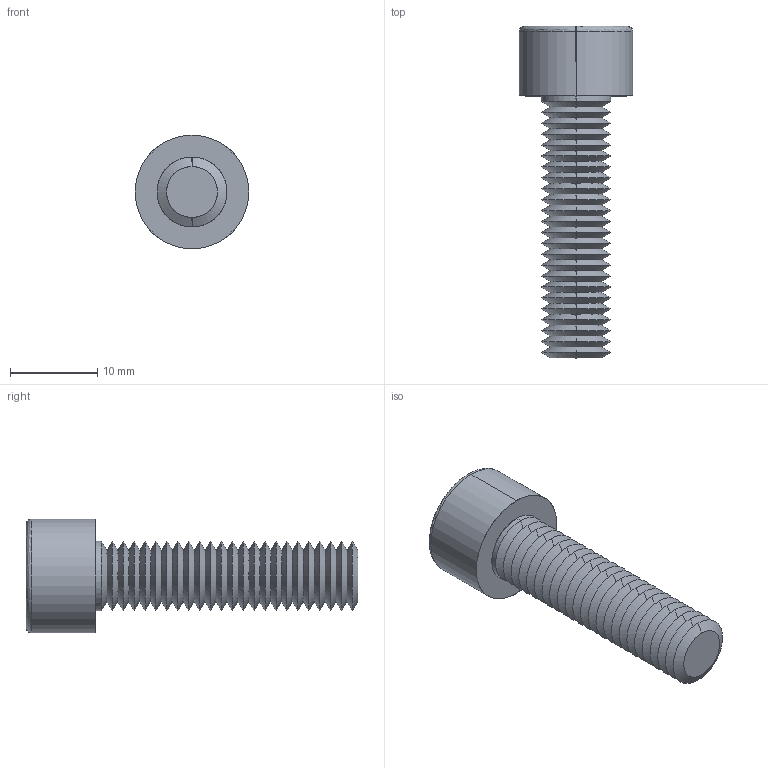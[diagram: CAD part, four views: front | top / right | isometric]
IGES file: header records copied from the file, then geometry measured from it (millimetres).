
Start section: SolidWorks IGES file using analytic representation for surfaces
Global section: file name: C:\Users\ianosborn\Desktop\N0007.91N_v2\N0007.91N_v2_20250519_IGES\91N.080.0300.igs; native system: SolidWorks 2019; preprocessor: SolidWorks 2019; author: IanOsborn; date: 250520.095422; units: millimetre
Bounding box: 13 x 38 x 13 mm (x, y, z)
Surface area: 1977.6 mm2 (no closed solid volume)
Topology: 0 solids, 0 shells, 124 faces, 693 edges, 691 vertices
Faces by surface type: revolution 107, bspline 17
